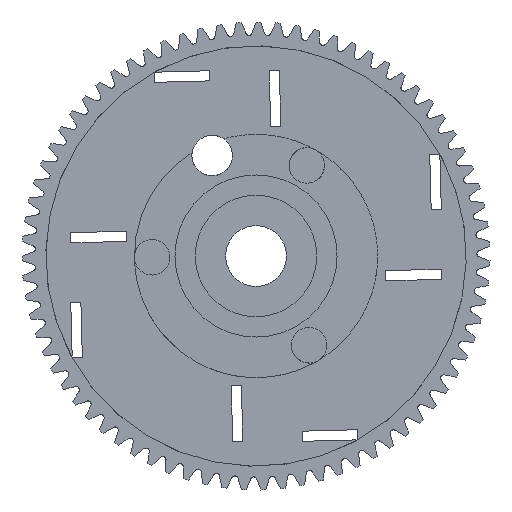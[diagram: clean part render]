
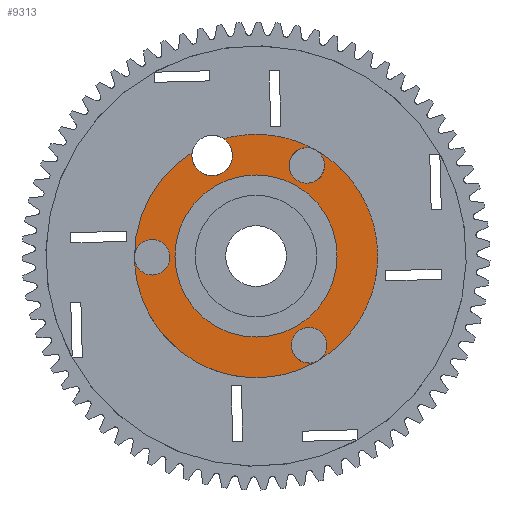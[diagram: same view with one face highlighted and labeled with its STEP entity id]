
A CAD part, front view. The second image highlights one B-rep face of the part: STEP entity #9313.
In plain terms, the highlighted planar face has unit normal (0, -1, 0).
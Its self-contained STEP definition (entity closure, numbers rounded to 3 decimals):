
#18=FACE_BOUND('',#2250,.T.);
#38=PLANE('',#9859);
#1737=FACE_OUTER_BOUND('',#2249,.T.);
#2249=EDGE_LOOP('',(#8416,#8417,#8418,#8419,#8420,#8421,#8422,#8423,#8424,
#8425,#8426));
#2250=EDGE_LOOP('',(#8427));
#2311=CIRCLE('',#9376,1.75);
#2313=CIRCLE('',#9379,1.75);
#2633=CIRCLE('',#9860,2.);
#2634=CIRCLE('',#9861,2.);
#2635=CIRCLE('',#9862,12.);
#2636=CIRCLE('',#9863,1.75);
#2637=CIRCLE('',#9864,12.);
#2638=CIRCLE('',#9865,1.75);
#2639=CIRCLE('',#9866,12.);
#2640=CIRCLE('',#9867,1.75);
#2641=CIRCLE('',#9868,12.);
#2642=CIRCLE('',#9869,8.);
#3179=VERTEX_POINT('',#11295);
#3181=VERTEX_POINT('',#11299);
#3183=VERTEX_POINT('',#11304);
#3185=VERTEX_POINT('',#11308);
#4103=VERTEX_POINT('',#54862);
#4104=VERTEX_POINT('',#54863);
#4105=VERTEX_POINT('',#54865);
#4106=VERTEX_POINT('',#54871);
#4107=VERTEX_POINT('',#54875);
#4173=EDGE_CURVE('',#3179,#3181,#2311,.T.);
#4177=EDGE_CURVE('',#3183,#3185,#2313,.T.);
#5551=EDGE_CURVE('',#4103,#4104,#2633,.T.);
#5552=EDGE_CURVE('',#4104,#4105,#2634,.T.);
#5553=EDGE_CURVE('',#3181,#4105,#2635,.T.);
#5554=EDGE_CURVE('',#3181,#3179,#2636,.T.);
#5555=EDGE_CURVE('',#3185,#3181,#2637,.T.);
#5556=EDGE_CURVE('',#3185,#3183,#2638,.T.);
#5557=EDGE_CURVE('',#4106,#3185,#2639,.T.);
#5558=EDGE_CURVE('',#4106,#4106,#2640,.T.);
#5559=EDGE_CURVE('',#4103,#4106,#2641,.T.);
#5560=EDGE_CURVE('',#4107,#4107,#2642,.T.);
#8416=ORIENTED_EDGE('',*,*,#5551,.T.);
#8417=ORIENTED_EDGE('',*,*,#5552,.T.);
#8418=ORIENTED_EDGE('',*,*,#5553,.F.);
#8419=ORIENTED_EDGE('',*,*,#5554,.T.);
#8420=ORIENTED_EDGE('',*,*,#4173,.T.);
#8421=ORIENTED_EDGE('',*,*,#5555,.F.);
#8422=ORIENTED_EDGE('',*,*,#5556,.T.);
#8423=ORIENTED_EDGE('',*,*,#4177,.T.);
#8424=ORIENTED_EDGE('',*,*,#5557,.F.);
#8425=ORIENTED_EDGE('',*,*,#5558,.T.);
#8426=ORIENTED_EDGE('',*,*,#5559,.F.);
#8427=ORIENTED_EDGE('',*,*,#5560,.T.);
#9313=ADVANCED_FACE('',(#1737,#18),#38,.F.);
#9376=AXIS2_PLACEMENT_3D('',#11301,#9933,#9934);
#9379=AXIS2_PLACEMENT_3D('',#11310,#9941,#9942);
#9859=AXIS2_PLACEMENT_3D('',#54861,#11055,#11056);
#9860=AXIS2_PLACEMENT_3D('',#54864,#11057,#11058);
#9861=AXIS2_PLACEMENT_3D('',#54866,#11059,#11060);
#9862=AXIS2_PLACEMENT_3D('',#54867,#11061,#11062);
#9863=AXIS2_PLACEMENT_3D('',#54868,#11063,#11064);
#9864=AXIS2_PLACEMENT_3D('',#54869,#11065,#11066);
#9865=AXIS2_PLACEMENT_3D('',#54870,#11067,#11068);
#9866=AXIS2_PLACEMENT_3D('',#54872,#11069,#11070);
#9867=AXIS2_PLACEMENT_3D('',#54873,#11071,#11072);
#9868=AXIS2_PLACEMENT_3D('',#54874,#11073,#11074);
#9869=AXIS2_PLACEMENT_3D('',#54876,#11075,#11076);
#9933=DIRECTION('center_axis',(0.,1.,0.));
#9934=DIRECTION('ref_axis',(1.,0.,0.));
#9941=DIRECTION('center_axis',(0.,1.,0.));
#9942=DIRECTION('ref_axis',(1.,0.,0.));
#11055=DIRECTION('center_axis',(0.,1.,0.));
#11056=DIRECTION('ref_axis',(1.,0.,0.));
#11057=DIRECTION('center_axis',(0.,1.,0.));
#11058=DIRECTION('ref_axis',(1.,0.,0.));
#11059=DIRECTION('center_axis',(0.,1.,0.));
#11060=DIRECTION('ref_axis',(1.,0.,0.));
#11061=DIRECTION('center_axis',(0.,1.,0.));
#11062=DIRECTION('ref_axis',(1.,0.,0.));
#11063=DIRECTION('center_axis',(0.,1.,0.));
#11064=DIRECTION('ref_axis',(1.,0.,0.));
#11065=DIRECTION('center_axis',(0.,1.,0.));
#11066=DIRECTION('ref_axis',(1.,0.,0.));
#11067=DIRECTION('center_axis',(0.,1.,0.));
#11068=DIRECTION('ref_axis',(1.,0.,0.));
#11069=DIRECTION('center_axis',(0.,1.,0.));
#11070=DIRECTION('ref_axis',(1.,0.,0.));
#11071=DIRECTION('center_axis',(0.,1.,0.));
#11072=DIRECTION('ref_axis',(1.,0.,0.));
#11073=DIRECTION('center_axis',(0.,1.,0.));
#11074=DIRECTION('ref_axis',(1.,0.,0.));
#11075=DIRECTION('center_axis',(0.,1.,0.));
#11076=DIRECTION('ref_axis',(1.,0.,0.));
#11295=CARTESIAN_POINT('',(-11.999,0.,-0.127));
#11299=CARTESIAN_POINT('',(-11.999,0.,-0.149));
#11301=CARTESIAN_POINT('Origin',(-10.249,0.,-0.127));
#11304=CARTESIAN_POINT('',(3.485,0.,-8.813));
#11308=CARTESIAN_POINT('',(6.128,0.,-10.317));
#11310=CARTESIAN_POINT('Origin',(5.235,0.,-8.813));
#54861=CARTESIAN_POINT('Origin',(0.,0.,0.));
#54862=CARTESIAN_POINT('',(-3.196,0.,11.566));
#54863=CARTESIAN_POINT('',(-6.333,0.,9.921));
#54864=CARTESIAN_POINT('Origin',(-4.333,0.,9.921));
#54865=CARTESIAN_POINT('',(-6.313,0.,10.205));
#54866=CARTESIAN_POINT('Origin',(-4.333,0.,9.921));
#54867=CARTESIAN_POINT('Origin',(0.,0.,0.));
#54868=CARTESIAN_POINT('Origin',(-10.249,0.,-0.127));
#54869=CARTESIAN_POINT('Origin',(0.,0.,0.));
#54870=CARTESIAN_POINT('Origin',(5.235,0.,-8.813));
#54871=CARTESIAN_POINT('',(5.871,0.,10.466));
#54872=CARTESIAN_POINT('Origin',(0.,0.,0.));
#54873=CARTESIAN_POINT('Origin',(5.015,0.,8.94));
#54874=CARTESIAN_POINT('Origin',(0.,0.,0.));
#54875=CARTESIAN_POINT('',(-8.,0.,0.));
#54876=CARTESIAN_POINT('Origin',(0.,0.,0.));
